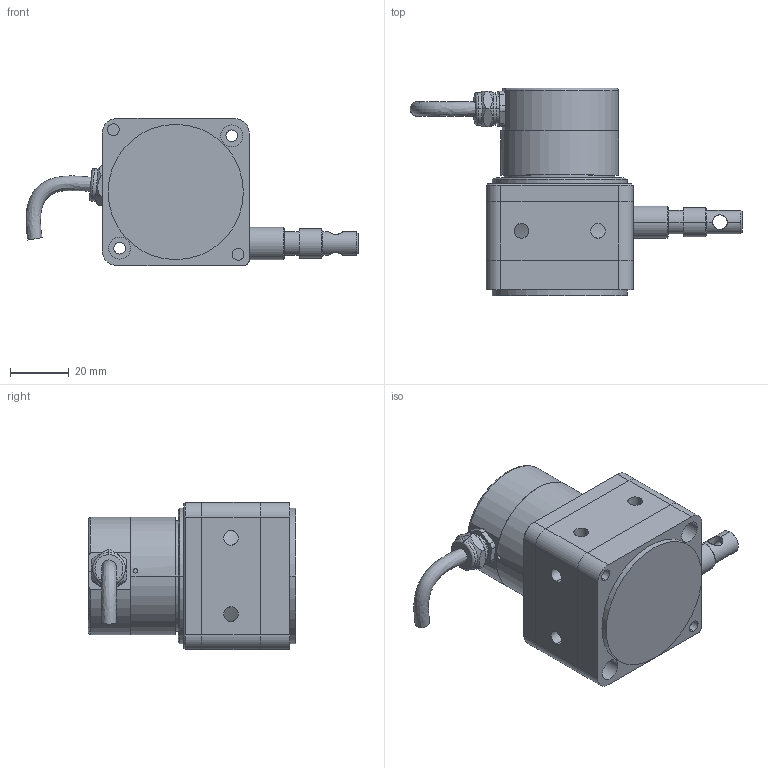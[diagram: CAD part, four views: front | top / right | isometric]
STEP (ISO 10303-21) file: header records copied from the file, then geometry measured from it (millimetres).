
FILE_DESCRIPTION(/* description */ (''),/* implementation_level */ '2;1');
FILE_NAME(/* name */ '01 IP68 BRT38 0.3m&0.5m&1m-拉线盒.stp',/* time_stamp */ '2023-06-13T15:43:59+08:00',/* author */ (''),/* organization */ (''),/* preprocessor_version */ 'ST-DEVELOPER v16.7',/* originating_system */ 'SIEMENS PLM Software NX 12.0',/* authorisation */ '');
FILE_SCHEMA (('AP203_CONFIGURATION_CONTROLLED_3D_DESIGN_OF_MECHANICAL_PARTS_AND_ASSEMBLIES_MIM_LF { 1 0 10303 403 2 1 2}'));
Length unit declared in the file: millimetre
Products named in the file (1): 2901FD3826036751
Bounding box: 112.91 x 70.5 x 50 mm (x, y, z)
Volume: 99568.3 mm3; surface area: 48389.8 mm2
Topology: 14 solids, 14 shells, 421 faces, 1175 edges, 746 vertices
Faces by surface type: cylinder 203, plane 110, torus 53, cone 28, sphere 26, bspline 1
Full cylindrical faces by diameter (mm): 9 x1, 12 x1, 38 x1
Entity records: 15282 total; most frequent: CARTESIAN_POINT 4512, DIRECTION 2251, ORIENTED_EDGE 2240, EDGE_CURVE 1120, AXIS2_PLACEMENT_3D 967, VERTEX_POINT 748, CIRCLE 546, EDGE_LOOP 522
